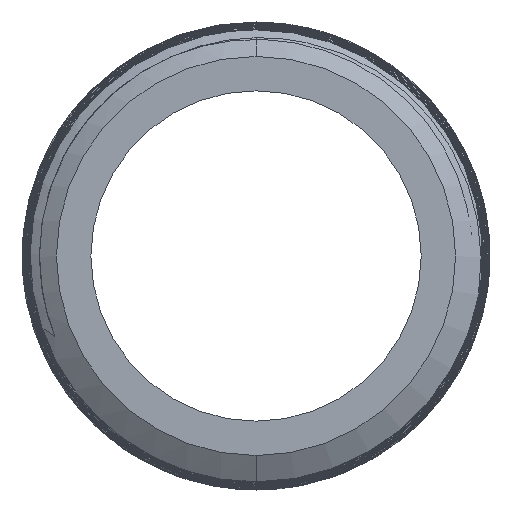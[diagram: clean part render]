
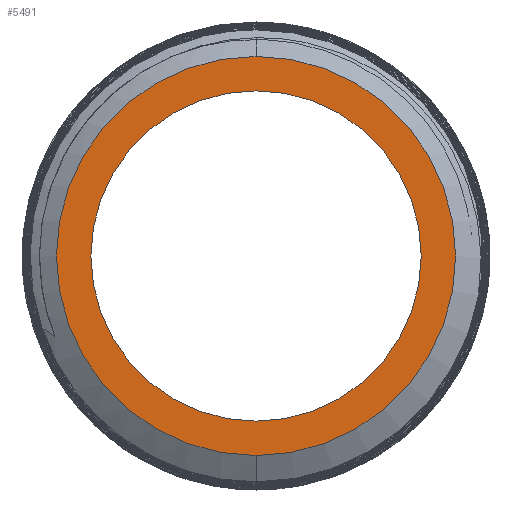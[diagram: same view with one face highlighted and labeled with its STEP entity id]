
A CAD part, left-side view. The second image highlights one B-rep face of the part: STEP entity #5491.
In plain terms, the highlighted planar face has unit normal (-1, 0, 0).
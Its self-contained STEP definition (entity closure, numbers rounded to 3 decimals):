
#4 = VERTEX_POINT ( 'NONE', #905 ) ;
#179 = EDGE_CURVE ( 'NONE', #1068, #1997, #6433, .T. ) ;
#396 = DIRECTION ( 'NONE',  ( 0., 0., -1. ) ) ;
#905 = CARTESIAN_POINT ( 'NONE',  ( -25., 0., -4.35 ) ) ;
#998 = ORIENTED_EDGE ( 'NONE', *, *, #5103, .T. ) ;
#1068 = VERTEX_POINT ( 'NONE', #2309 ) ;
#1103 = CIRCLE ( 'NONE', #1985, 4.35 ) ;
#1127 = PLANE ( 'NONE',  #4543 ) ;
#1163 = FACE_OUTER_BOUND ( 'NONE', #6027, .T. ) ;
#1221 = AXIS2_PLACEMENT_3D ( 'NONE', #2120, #3699, #4246 ) ;
#1339 = ORIENTED_EDGE ( 'NONE', *, *, #5932, .T. ) ;
#1675 = CARTESIAN_POINT ( 'NONE',  ( -25., 3.6, 0. ) ) ;
#1678 = DIRECTION ( 'NONE',  ( 0., 0., 1. ) ) ;
#1829 = EDGE_LOOP ( 'NONE', ( #5091, #6129 ) ) ;
#1985 = AXIS2_PLACEMENT_3D ( 'NONE', #4919, #5882, #1678 ) ;
#1997 = VERTEX_POINT ( 'NONE', #3912 ) ;
#2068 = CARTESIAN_POINT ( 'NONE',  ( -25., 0., 0. ) ) ;
#2120 = CARTESIAN_POINT ( 'NONE',  ( -25., 0., 0. ) ) ;
#2309 = CARTESIAN_POINT ( 'NONE',  ( -25., 0., -3.6 ) ) ;
#2332 = CIRCLE ( 'NONE', #5534, 3.6 ) ;
#2779 = AXIS2_PLACEMENT_3D ( 'NONE', #2068, #6386, #3085 ) ;
#3085 = DIRECTION ( 'NONE',  ( 0., 0., 1. ) ) ;
#3337 = CARTESIAN_POINT ( 'NONE',  ( -25., 0., 4.35 ) ) ;
#3340 = CIRCLE ( 'NONE', #2779, 4.35 ) ;
#3699 = DIRECTION ( 'NONE',  ( -1., 0., 0. ) ) ;
#3912 = CARTESIAN_POINT ( 'NONE',  ( -25., 0., 3.6 ) ) ;
#4246 = DIRECTION ( 'NONE',  ( 0., 0., 1. ) ) ;
#4440 = CARTESIAN_POINT ( 'NONE',  ( -25., 0., 0. ) ) ;
#4543 = AXIS2_PLACEMENT_3D ( 'NONE', #1675, #5361, #396 ) ;
#4694 = EDGE_CURVE ( 'NONE', #1997, #1068, #2332, .T. ) ;
#4788 = VERTEX_POINT ( 'NONE', #3337 ) ;
#4894 = DIRECTION ( 'NONE',  ( 0., 0., 1. ) ) ;
#4919 = CARTESIAN_POINT ( 'NONE',  ( -25., 0., 0. ) ) ;
#4959 = DIRECTION ( 'NONE',  ( -1., 0., 0. ) ) ;
#5091 = ORIENTED_EDGE ( 'NONE', *, *, #4694, .F. ) ;
#5103 = EDGE_CURVE ( 'NONE', #4788, #4, #1103, .T. ) ;
#5361 = DIRECTION ( 'NONE',  ( 1., 0., 0. ) ) ;
#5491 = ADVANCED_FACE ( 'NONE', ( #6445, #1163 ), #1127, .F. ) ;
#5534 = AXIS2_PLACEMENT_3D ( 'NONE', #4440, #4959, #4894 ) ;
#5882 = DIRECTION ( 'NONE',  ( -1., 0., 0. ) ) ;
#5932 = EDGE_CURVE ( 'NONE', #4, #4788, #3340, .T. ) ;
#6027 = EDGE_LOOP ( 'NONE', ( #1339, #998 ) ) ;
#6129 = ORIENTED_EDGE ( 'NONE', *, *, #179, .F. ) ;
#6386 = DIRECTION ( 'NONE',  ( -1., 0., 0. ) ) ;
#6433 = CIRCLE ( 'NONE', #1221, 3.6 ) ;
#6445 = FACE_BOUND ( 'NONE', #1829, .T. ) ;
